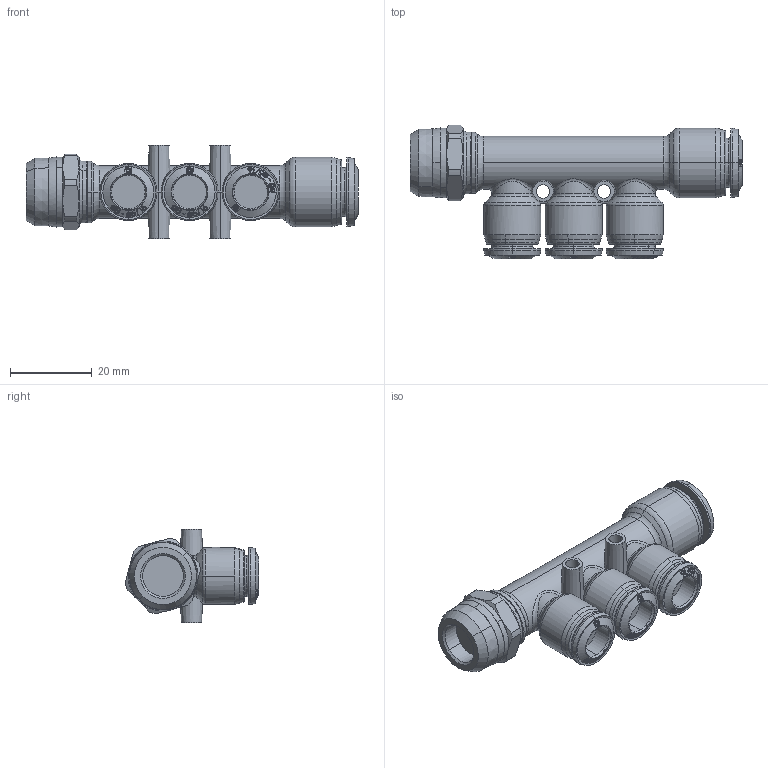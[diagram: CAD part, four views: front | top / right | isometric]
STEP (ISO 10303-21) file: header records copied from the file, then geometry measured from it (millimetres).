
FILE_DESCRIPTION (( 'STEP AP214' ), '1' );
FILE_NAME ('5536000010.step', '2012-10-02T17:49:37', ( '' ), ( '' ), 'SwSTEP 2.0', 'SolidWorks 2012', '' );
FILE_SCHEMA (( 'AUTOMOTIVE_DESIGN' ));
Length unit declared in the file: millimetre
Products named in the file (1): 5536000010
Bounding box: 81.4 x 32.75 x 23 mm (x, y, z)
Volume: 19283 mm3; surface area: 9258.3 mm2
Topology: 1 solids, 2 shells, 718 faces, 1830 edges, 1178 vertices
Faces by surface type: bspline 391, cone 174, cylinder 63, torus 47, plane 43
Entity records: 51097 total; most frequent: CARTESIAN_POINT 29295, ORIENTED_EDGE 3660, EDGE_CURVE 1830, DIRECTION 1510, B_SPLINE_CURVE_WITH_KNOTS 1306, VERTEX_POINT 1178, EDGE_LOOP 786, UNCERTAINTY_MEASURE_WITH_UNIT 721
